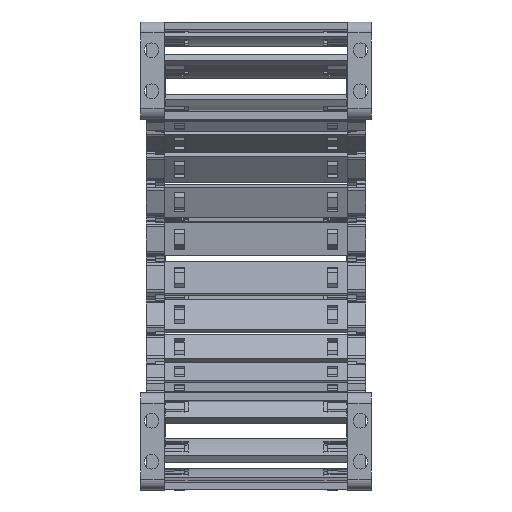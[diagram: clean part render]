
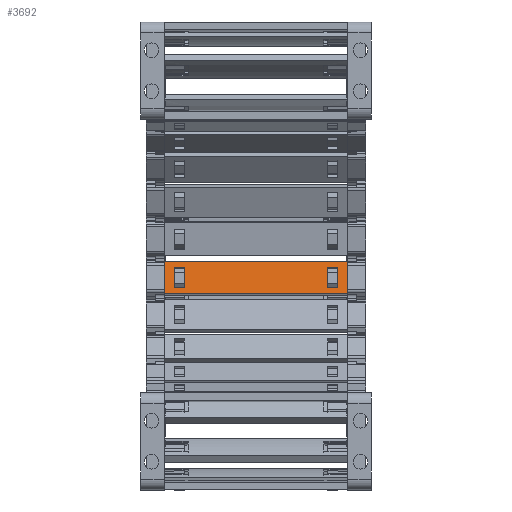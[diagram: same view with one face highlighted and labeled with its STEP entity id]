
A CAD part, left-side view. The second image highlights one B-rep face of the part: STEP entity #3692.
In plain terms, the highlighted planar face has unit normal (-0.988, 0, 0.156) as drawn and (0, 0, -1) by its records, which use the part's own axes.
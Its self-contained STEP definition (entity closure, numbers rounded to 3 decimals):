
#3172=DIRECTION('',(-1.,0.,0.));
#3173=VECTOR('',#3172,18.);
#3174=CARTESIAN_POINT('',(9.,-75.25,0.));
#3175=LINE('',#3174,#3173);
#3210=DIRECTION('',(0.,1.,0.));
#3211=VECTOR('',#3210,5.56);
#3212=CARTESIAN_POINT('',(-5.55,14.2,0.));
#3213=LINE('',#3212,#3211);
#3214=DIRECTION('',(1.,0.,0.));
#3215=VECTOR('',#3214,11.1);
#3216=CARTESIAN_POINT('',(-5.55,19.76,0.));
#3217=LINE('',#3216,#3215);
#3218=DIRECTION('',(0.,-1.,0.));
#3219=VECTOR('',#3218,5.56);
#3220=CARTESIAN_POINT('',(5.55,19.76,0.));
#3221=LINE('',#3220,#3219);
#3222=DIRECTION('',(-1.,0.,0.));
#3223=VECTOR('',#3222,11.1);
#3224=CARTESIAN_POINT('',(5.55,14.2,0.));
#3225=LINE('',#3224,#3223);
#3230=DIRECTION('',(1.,0.,0.));
#3231=VECTOR('',#3230,18.);
#3232=CARTESIAN_POINT('',(-9.,25.25,0.));
#3233=LINE('',#3232,#3231);
#3264=DIRECTION('',(0.,1.,0.));
#3265=VECTOR('',#3264,100.5);
#3266=CARTESIAN_POINT('',(-9.,-75.25,0.));
#3267=LINE('',#3266,#3265);
#3393=DIRECTION('',(0.,-1.,0.));
#3394=VECTOR('',#3393,100.5);
#3395=CARTESIAN_POINT('',(9.,25.25,0.));
#3396=LINE('',#3395,#3394);
#3458=DIRECTION('',(0.,-1.,0.));
#3459=VECTOR('',#3458,5.56);
#3460=CARTESIAN_POINT('',(-5.55,-64.2,0.));
#3461=LINE('',#3460,#3459);
#3470=DIRECTION('',(0.,1.,0.));
#3471=VECTOR('',#3470,5.56);
#3472=CARTESIAN_POINT('',(5.55,-69.76,0.));
#3473=LINE('',#3472,#3471);
#3482=DIRECTION('',(1.,0.,0.));
#3483=VECTOR('',#3482,11.1);
#3484=CARTESIAN_POINT('',(-5.55,-69.76,0.));
#3485=LINE('',#3484,#3483);
#3494=DIRECTION('',(-1.,0.,0.));
#3495=VECTOR('',#3494,11.1);
#3496=CARTESIAN_POINT('',(5.55,-64.2,0.));
#3497=LINE('',#3496,#3495);
#3546=CARTESIAN_POINT('',(9.,-75.25,0.));
#3547=CARTESIAN_POINT('',(-9.,-75.25,0.));
#3548=VERTEX_POINT('',#3546);
#3549=VERTEX_POINT('',#3547);
#3570=CARTESIAN_POINT('',(-5.55,-64.2,0.));
#3571=CARTESIAN_POINT('',(-5.55,-69.76,0.));
#3572=VERTEX_POINT('',#3570);
#3573=VERTEX_POINT('',#3571);
#3574=CARTESIAN_POINT('',(5.55,-64.2,0.));
#3575=VERTEX_POINT('',#3574);
#3576=CARTESIAN_POINT('',(5.55,-69.76,0.));
#3577=VERTEX_POINT('',#3576);
#3602=CARTESIAN_POINT('',(-9.,25.25,0.));
#3603=CARTESIAN_POINT('',(9.,25.25,0.));
#3604=VERTEX_POINT('',#3602);
#3605=VERTEX_POINT('',#3603);
#3606=CARTESIAN_POINT('',(-5.55,14.2,0.));
#3607=CARTESIAN_POINT('',(-5.55,19.76,0.));
#3608=VERTEX_POINT('',#3606);
#3609=VERTEX_POINT('',#3607);
#3610=CARTESIAN_POINT('',(5.55,19.76,0.));
#3611=VERTEX_POINT('',#3610);
#3612=CARTESIAN_POINT('',(5.55,14.2,0.));
#3613=VERTEX_POINT('',#3612);
#3658=CARTESIAN_POINT('',(8.,-75.25,0.));
#3659=DIRECTION('',(0.,0.,-1.));
#3660=DIRECTION('',(-1.,0.,0.));
#3661=AXIS2_PLACEMENT_3D('',#3658,#3659,#3660);
#3662=PLANE('',#3661);
#3664=ORIENTED_EDGE('',*,*,#3663,.F.);
#3666=ORIENTED_EDGE('',*,*,#3665,.F.);
#3667=ORIENTED_EDGE('',*,*,#3631,.F.);
#3669=ORIENTED_EDGE('',*,*,#3668,.F.);
#3670=EDGE_LOOP('',(#3664,#3666,#3667,#3669));
#3671=FACE_OUTER_BOUND('',#3670,.F.);
#3673=ORIENTED_EDGE('',*,*,#3672,.T.);
#3675=ORIENTED_EDGE('',*,*,#3674,.T.);
#3677=ORIENTED_EDGE('',*,*,#3676,.T.);
#3679=ORIENTED_EDGE('',*,*,#3678,.T.);
#3680=EDGE_LOOP('',(#3673,#3675,#3677,#3679));
#3681=FACE_BOUND('',#3680,.F.);
#3683=ORIENTED_EDGE('',*,*,#3682,.F.);
#3685=ORIENTED_EDGE('',*,*,#3684,.F.);
#3687=ORIENTED_EDGE('',*,*,#3686,.F.);
#3689=ORIENTED_EDGE('',*,*,#3688,.F.);
#3690=EDGE_LOOP('',(#3683,#3685,#3687,#3689));
#3691=FACE_BOUND('',#3690,.F.);
#3692=ADVANCED_FACE('',(#3671,#3681,#3691),#3662,.T.);
#3631=EDGE_CURVE('',#3548,#3549,#3175,.T.);
#3663=EDGE_CURVE('',#3604,#3605,#3233,.T.);
#3665=EDGE_CURVE('',#3549,#3604,#3267,.T.);
#3668=EDGE_CURVE('',#3605,#3548,#3396,.T.);
#3672=EDGE_CURVE('',#3608,#3609,#3213,.T.);
#3674=EDGE_CURVE('',#3609,#3611,#3217,.T.);
#3676=EDGE_CURVE('',#3611,#3613,#3221,.T.);
#3678=EDGE_CURVE('',#3613,#3608,#3225,.T.);
#3682=EDGE_CURVE('',#3572,#3573,#3461,.T.);
#3684=EDGE_CURVE('',#3575,#3572,#3497,.T.);
#3686=EDGE_CURVE('',#3577,#3575,#3473,.T.);
#3688=EDGE_CURVE('',#3573,#3577,#3485,.T.);
